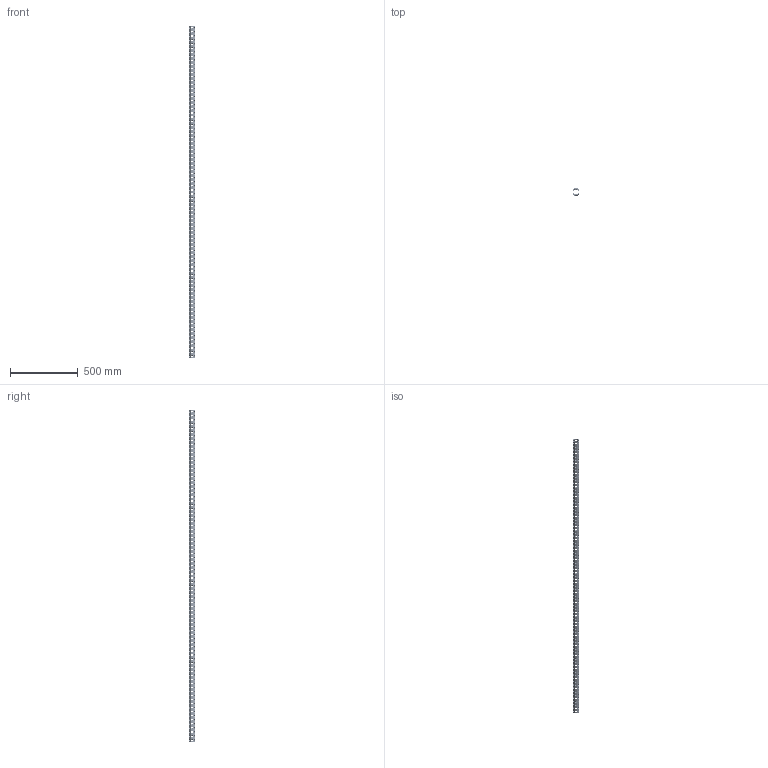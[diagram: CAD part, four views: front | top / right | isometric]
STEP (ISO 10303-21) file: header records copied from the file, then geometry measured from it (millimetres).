
FILE_DESCRIPTION(('CATIA V5 STEP Exchange'),'2;1');
FILE_NAME('U:\Room\唐宝山\EGT002\46-01-010311-01-EGT002-2458.stp','2021-08-24T02:08:40+00:00',('none'),('none'),'CATIA Version 5 Release 21 GA (IN-10)','CATIA V5 STEP AP203','none');
FILE_SCHEMA(('CONFIG_CONTROL_DESIGN'));
Products named in the file (1): 46-01-010311-01-EGT002-2458
Bounding box: 50 x 50 x 2458 mm (x, y, z)
Volume: 1751368.7 mm3; surface area: 843943.8 mm2
Topology: 1 solids, 1 shells, 3364 faces, 9266 edges, 5740 vertices
Faces by surface type: cone 1968, cylinder 1370, plane 26
Entity records: 137218 total; most frequent: CARTESIAN_POINT 55701, ORIENTED_EDGE 18532, DIRECTION 13136, EDGE_CURVE 9266, AXIS2_PLACEMENT_3D 6199, VERTEX_POINT 5740, EDGE_LOOP 4514, VECTOR 3574
